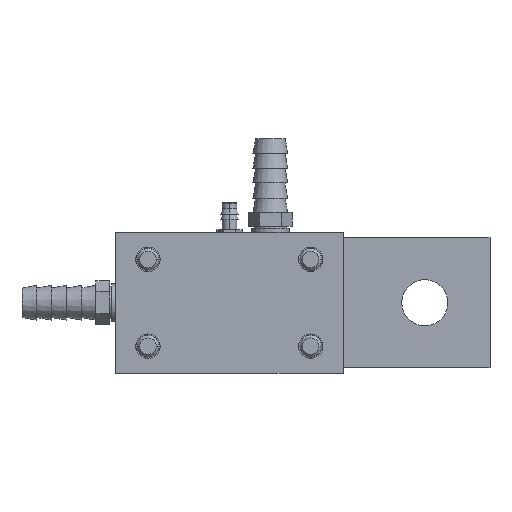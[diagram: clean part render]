
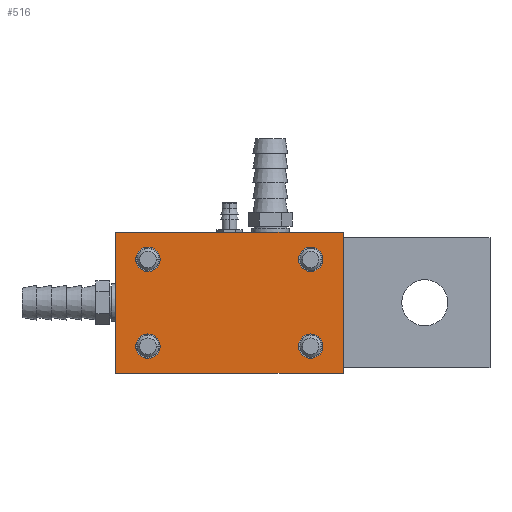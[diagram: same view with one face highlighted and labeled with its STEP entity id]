
A CAD part, left-side view. The second image highlights one B-rep face of the part: STEP entity #516.
In plain terms, the highlighted planar face has unit normal (-1, 0, 0).
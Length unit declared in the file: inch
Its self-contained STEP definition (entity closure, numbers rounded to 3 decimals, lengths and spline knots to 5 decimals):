
#251=CARTESIAN_POINT('',(-3.3125,-0.935,-0.5));
#252=DIRECTION('',(1.,0.,0.));
#253=DIRECTION('',(0.,-1.,0.));
#254=AXIS2_PLACEMENT_3D('',#251,#252,#253);
#256=CARTESIAN_POINT('',(-3.3125,-0.935,-0.5));
#257=DIRECTION('',(1.,0.,0.));
#258=DIRECTION('',(0.,1.,0.));
#259=AXIS2_PLACEMENT_3D('',#256,#257,#258);
#261=CARTESIAN_POINT('',(-3.3125,-0.935,0.5));
#262=DIRECTION('',(1.,0.,0.));
#263=DIRECTION('',(0.,-1.,0.));
#264=AXIS2_PLACEMENT_3D('',#261,#262,#263);
#266=CARTESIAN_POINT('',(-3.3125,-0.935,0.5));
#267=DIRECTION('',(1.,0.,0.));
#268=DIRECTION('',(0.,1.,0.));
#269=AXIS2_PLACEMENT_3D('',#266,#267,#268);
#271=CARTESIAN_POINT('',(-3.3125,0.94,-0.5));
#272=DIRECTION('',(1.,0.,0.));
#273=DIRECTION('',(0.,-1.,0.));
#274=AXIS2_PLACEMENT_3D('',#271,#272,#273);
#276=CARTESIAN_POINT('',(-3.3125,0.94,-0.5));
#277=DIRECTION('',(1.,0.,0.));
#278=DIRECTION('',(0.,1.,0.));
#279=AXIS2_PLACEMENT_3D('',#276,#277,#278);
#281=CARTESIAN_POINT('',(-3.3125,0.94,0.5));
#282=DIRECTION('',(1.,0.,0.));
#283=DIRECTION('',(0.,-1.,0.));
#284=AXIS2_PLACEMENT_3D('',#281,#282,#283);
#286=CARTESIAN_POINT('',(-3.3125,0.94,0.5));
#287=DIRECTION('',(1.,0.,0.));
#288=DIRECTION('',(0.,1.,0.));
#289=AXIS2_PLACEMENT_3D('',#286,#287,#288);
#319=DIRECTION('',(0.,-1.,0.));
#320=VECTOR('',#319,2.625);
#321=CARTESIAN_POINT('',(-3.3125,1.315,0.8125));
#322=LINE('',#321,#320);
#327=DIRECTION('',(0.,0.,-1.));
#328=VECTOR('',#327,1.625);
#329=CARTESIAN_POINT('',(-3.3125,-1.31,0.8125));
#330=LINE('',#329,#328);
#339=DIRECTION('',(0.,1.,0.));
#340=VECTOR('',#339,2.625);
#341=CARTESIAN_POINT('',(-3.3125,-1.31,-0.8125));
#342=LINE('',#341,#340);
#355=DIRECTION('',(0.,0.,1.));
#356=VECTOR('',#355,1.625);
#357=CARTESIAN_POINT('',(-3.3125,1.315,-0.8125));
#358=LINE('',#357,#356);
#369=CARTESIAN_POINT('',(-3.3125,1.315,-0.8125));
#370=VERTEX_POINT('',#369);
#371=CARTESIAN_POINT('',(-3.3125,1.315,0.8125));
#372=VERTEX_POINT('',#371);
#375=CARTESIAN_POINT('',(-3.3125,-1.31,-0.8125));
#376=VERTEX_POINT('',#375);
#377=CARTESIAN_POINT('',(-3.3125,-1.31,0.8125));
#378=VERTEX_POINT('',#377);
#379=CARTESIAN_POINT('',(-3.3125,-1.07563,-0.5));
#381=VERTEX_POINT('',#379);
#383=CARTESIAN_POINT('',(-3.3125,-0.79438,-0.5));
#385=VERTEX_POINT('',#383);
#387=CARTESIAN_POINT('',(-3.3125,-1.07563,0.5));
#389=VERTEX_POINT('',#387);
#391=CARTESIAN_POINT('',(-3.3125,-0.79438,0.5));
#393=VERTEX_POINT('',#391);
#395=CARTESIAN_POINT('',(-3.3125,0.79938,-0.5));
#397=VERTEX_POINT('',#395);
#399=CARTESIAN_POINT('',(-3.3125,1.08063,-0.5));
#401=VERTEX_POINT('',#399);
#403=CARTESIAN_POINT('',(-3.3125,0.79938,0.5));
#405=VERTEX_POINT('',#403);
#407=CARTESIAN_POINT('',(-3.3125,1.08063,0.5));
#409=VERTEX_POINT('',#407);
#479=CARTESIAN_POINT('',(-3.3125,0.0025,0.));
#480=DIRECTION('',(-1.,0.,0.));
#481=DIRECTION('',(0.,1.,0.));
#482=AXIS2_PLACEMENT_3D('',#479,#480,#481);
#483=PLANE('',#482);
#485=ORIENTED_EDGE('',*,*,#484,.T.);
#487=ORIENTED_EDGE('',*,*,#486,.T.);
#489=ORIENTED_EDGE('',*,*,#488,.T.);
#491=ORIENTED_EDGE('',*,*,#490,.T.);
#492=EDGE_LOOP('',(#485,#487,#489,#491));
#493=FACE_OUTER_BOUND('',#492,.F.);
#495=ORIENTED_EDGE('',*,*,#494,.F.);
#497=ORIENTED_EDGE('',*,*,#496,.F.);
#498=EDGE_LOOP('',(#495,#497));
#499=FACE_BOUND('',#498,.F.);
#501=ORIENTED_EDGE('',*,*,#500,.F.);
#503=ORIENTED_EDGE('',*,*,#502,.F.);
#504=EDGE_LOOP('',(#501,#503));
#505=FACE_BOUND('',#504,.F.);
#507=ORIENTED_EDGE('',*,*,#506,.F.);
#509=ORIENTED_EDGE('',*,*,#508,.F.);
#510=EDGE_LOOP('',(#507,#509));
#511=FACE_BOUND('',#510,.F.);
#512=ORIENTED_EDGE('',*,*,#420,.F.);
#513=ORIENTED_EDGE('',*,*,#473,.F.);
#514=EDGE_LOOP('',(#512,#513));
#515=FACE_BOUND('',#514,.F.);
#255=CIRCLE('',#254,0.14063);
#260=CIRCLE('',#259,0.14063);
#265=CIRCLE('',#264,0.14063);
#270=CIRCLE('',#269,0.14063);
#275=CIRCLE('',#274,0.14063);
#280=CIRCLE('',#279,0.14063);
#285=CIRCLE('',#284,0.14063);
#290=CIRCLE('',#289,0.14063);
#420=EDGE_CURVE('',#381,#385,#255,.T.);
#473=EDGE_CURVE('',#385,#381,#260,.T.);
#484=EDGE_CURVE('',#372,#378,#322,.T.);
#486=EDGE_CURVE('',#378,#376,#330,.T.);
#488=EDGE_CURVE('',#376,#370,#342,.T.);
#490=EDGE_CURVE('',#370,#372,#358,.T.);
#494=EDGE_CURVE('',#389,#393,#265,.T.);
#496=EDGE_CURVE('',#393,#389,#270,.T.);
#500=EDGE_CURVE('',#397,#401,#275,.T.);
#502=EDGE_CURVE('',#401,#397,#280,.T.);
#506=EDGE_CURVE('',#405,#409,#285,.T.);
#508=EDGE_CURVE('',#409,#405,#290,.T.);
#516=ADVANCED_FACE('',(#493,#499,#505,#511,#515),#483,.T.);
